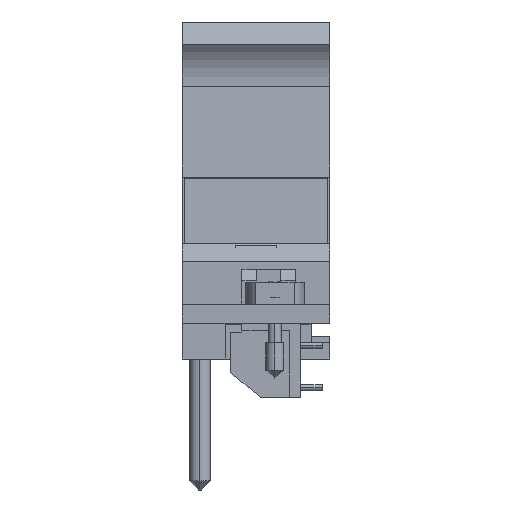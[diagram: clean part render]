
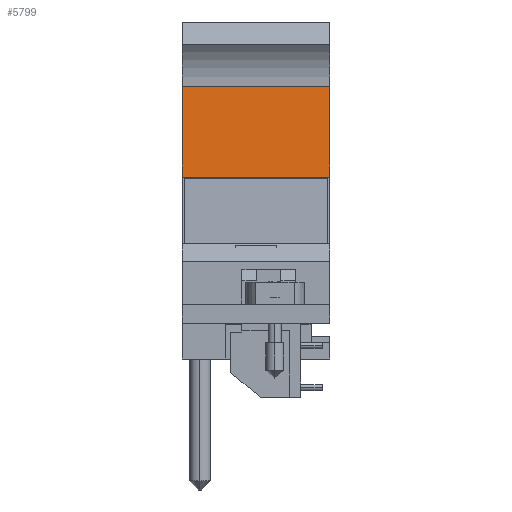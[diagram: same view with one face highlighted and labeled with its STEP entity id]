
A CAD part, left-side view. The second image highlights one B-rep face of the part: STEP entity #5799.
In plain terms, the highlighted planar face has unit normal (-0.998, 0, 0.065).
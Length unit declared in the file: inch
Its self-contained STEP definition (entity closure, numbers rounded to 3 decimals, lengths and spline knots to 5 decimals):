
#194=DIRECTION('',(-0.065,0.,-0.998));
#195=VECTOR('',#194,0.48638);
#196=CARTESIAN_POINT('',(4.31236,0.,1.26644));
#197=LINE('',#196,#195);
#448=DIRECTION('',(0.065,0.,0.998));
#449=VECTOR('',#448,0.48638);
#450=CARTESIAN_POINT('',(4.28058,-0.788,0.7811));
#451=LINE('',#450,#449);
#619=DIRECTION('',(0.,1.,0.));
#620=VECTOR('',#619,0.788);
#621=CARTESIAN_POINT('',(4.28058,-0.788,0.7811));
#622=LINE('',#621,#620);
#623=DIRECTION('',(0.,1.,0.));
#624=VECTOR('',#623,0.788);
#625=CARTESIAN_POINT('',(4.31236,-0.788,1.26644));
#626=LINE('',#625,#624);
#4608=CARTESIAN_POINT('',(4.28058,-0.788,0.7811));
#4609=VERTEX_POINT('',#4608);
#4610=CARTESIAN_POINT('',(4.31236,-0.788,1.26644));
#4611=VERTEX_POINT('',#4610);
#4728=CARTESIAN_POINT('',(4.31236,0.,1.26644));
#4729=VERTEX_POINT('',#4728);
#4730=CARTESIAN_POINT('',(4.28058,0.,0.7811));
#4731=VERTEX_POINT('',#4730);
#5787=CARTESIAN_POINT('',(4.31236,0.,1.26644));
#5788=DIRECTION('',(0.998,0.,-0.065));
#5789=DIRECTION('',(-0.065,0.,-0.998));
#5790=AXIS2_PLACEMENT_3D('',#5787,#5788,#5789);
#5791=PLANE('',#5790);
#5792=ORIENTED_EDGE('',*,*,#5782,.T.);
#5793=ORIENTED_EDGE('',*,*,#5345,.F.);
#5795=ORIENTED_EDGE('',*,*,#5794,.F.);
#5796=ORIENTED_EDGE('',*,*,#5650,.F.);
#5797=EDGE_LOOP('',(#5792,#5793,#5795,#5796));
#5798=FACE_OUTER_BOUND('',#5797,.F.);
#5799=ADVANCED_FACE('',(#5798),#5791,.F.);
#5345=EDGE_CURVE('',#4729,#4731,#197,.T.);
#5650=EDGE_CURVE('',#4609,#4611,#451,.T.);
#5782=EDGE_CURVE('',#4609,#4731,#622,.T.);
#5794=EDGE_CURVE('',#4611,#4729,#626,.T.);
